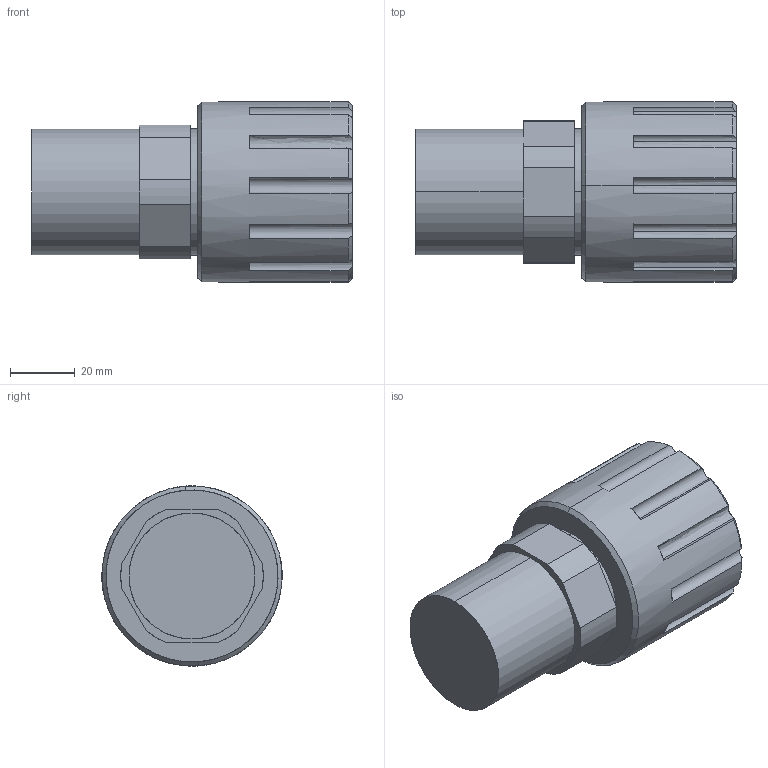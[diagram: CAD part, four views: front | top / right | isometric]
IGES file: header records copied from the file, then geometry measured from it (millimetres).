
Start section: SolidWorks IGES file using analytic representation for surfaces
Global section: file name: S:\Product Visuals\Pumps to be Defeatured\140 fittings\FITTING ASSEMBLIES\DEFEATURED\20 FLARETEC FITTING.IGS; native system: SolidWorks 2012; preprocessor: SolidWorks 2012; author: karen.bodily; date: 121130.133007; units: inch
Bounding box: 98.8 x 55.57 x 55.57 mm (x, y, z)
Surface area: 22826.5 mm2 (no closed solid volume)
Topology: 0 solids, 0 shells, 69 faces, 1194 edges, 1194 vertices
Faces by surface type: revolution 45, bspline 24
